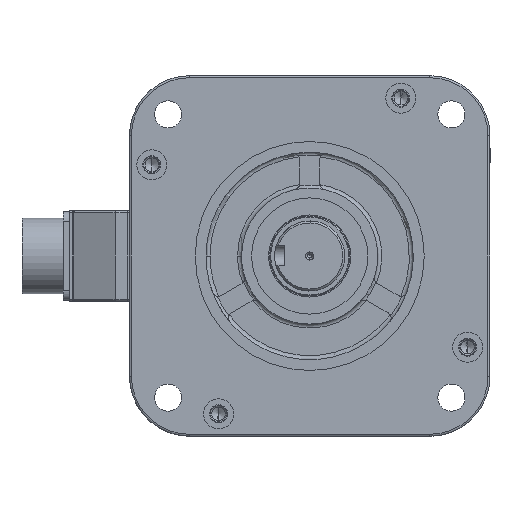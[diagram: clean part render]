
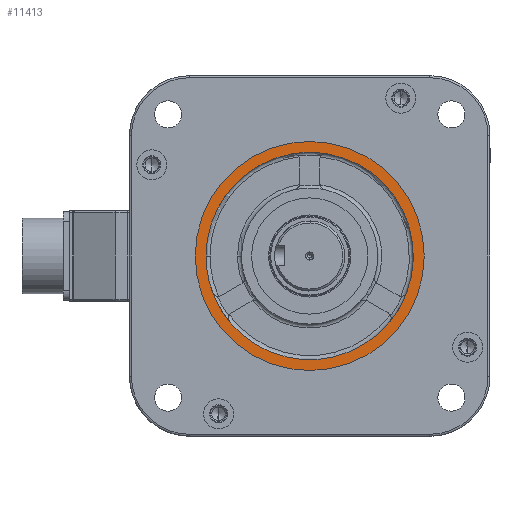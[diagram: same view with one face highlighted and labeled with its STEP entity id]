
A CAD part, left-side view. The second image highlights one B-rep face of the part: STEP entity #11413.
In plain terms, the highlighted planar face has unit normal (-1, 0, 0) as drawn and (0, 0, 1) by its records, which use the part's own axes.
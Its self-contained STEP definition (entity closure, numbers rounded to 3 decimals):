
#1977 = DIRECTION ( 'NONE',  ( 1., 0., 0. ) ) ;
#2345 = AXIS2_PLACEMENT_3D ( 'NONE', #25927, #16747, #54008 ) ;
#3490 = CARTESIAN_POINT ( 'NONE',  ( 0., 0., 21. ) ) ;
#4202 = ORIENTED_EDGE ( 'NONE', *, *, #59687, .F. ) ;
#4257 = AXIS2_PLACEMENT_3D ( 'NONE', #53026, #48127, #1977 ) ;
#5352 = CARTESIAN_POINT ( 'NONE',  ( 48.455, 18.17, 21. ) ) ;
#6390 = DIRECTION ( 'NONE',  ( 1., 0., 0. ) ) ;
#6710 = VERTEX_POINT ( 'NONE', #58742 ) ;
#7795 = DIRECTION ( 'NONE',  ( 0., 0., 1. ) ) ;
#8180 = ORIENTED_EDGE ( 'NONE', *, *, #17092, .F. ) ;
#9237 = VERTEX_POINT ( 'NONE', #51777 ) ;
#9625 = CARTESIAN_POINT ( 'NONE',  ( 0., 0., 21. ) ) ;
#10361 = FACE_BOUND ( 'NONE', #19733, .T. ) ;
#10972 = CARTESIAN_POINT ( 'NONE',  ( 0., 0., 21. ) ) ;
#11404 = CARTESIAN_POINT ( 'NONE',  ( 8.492, -51.048, 21. ) ) ;
#11413 = ADVANCED_FACE ( 'NONE', ( #10361, #57110 ), #38185, .T. ) ;
#11822 = CIRCLE ( 'NONE', #54772, 51.75 ) ;
#12083 = DIRECTION ( 'NONE',  ( 0., 0., 1. ) ) ;
#13052 = EDGE_LOOP ( 'NONE', ( #32313, #18221 ) ) ;
#13415 = DIRECTION ( 'NONE',  ( 0., 0., 1. ) ) ;
#14551 = DIRECTION ( 'NONE',  ( 0., 0., 1. ) ) ;
#16747 = DIRECTION ( 'NONE',  ( 0., 0., 1. ) ) ;
#17092 = EDGE_CURVE ( 'NONE', #54783, #20160, #29979, .T. ) ;
#17542 = VERTEX_POINT ( 'NONE', #36149 ) ;
#18221 = ORIENTED_EDGE ( 'NONE', *, *, #32267, .T. ) ;
#19126 = ORIENTED_EDGE ( 'NONE', *, *, #40717, .F. ) ;
#19733 = EDGE_LOOP ( 'NONE', ( #40390, #8180, #35056, #19126, #37128, #28521, #4202 ) ) ;
#20160 = VERTEX_POINT ( 'NONE', #5352 ) ;
#20786 = AXIS2_PLACEMENT_3D ( 'NONE', #39687, #29334, #6390 ) ;
#21423 = CARTESIAN_POINT ( 'NONE',  ( 51.75, 0., 21. ) ) ;
#21768 = CIRCLE ( 'NONE', #41255, 57.15 ) ;
#21848 = CIRCLE ( 'NONE', #4257, 51.75 ) ;
#23389 = DIRECTION ( 'NONE',  ( 0., 0., 1. ) ) ;
#24022 = DIRECTION ( 'NONE',  ( 1., 0., 0. ) ) ;
#24937 = DIRECTION ( 'NONE',  ( 0., 0., 1. ) ) ;
#25038 = DIRECTION ( 'NONE',  ( 1., 0., 0. ) ) ;
#25927 = CARTESIAN_POINT ( 'NONE',  ( 0., 0., 21. ) ) ;
#26465 = DIRECTION ( 'NONE',  ( 1., 0., 0. ) ) ;
#27094 = DIRECTION ( 'NONE',  ( 1., 0., 0. ) ) ;
#28521 = ORIENTED_EDGE ( 'NONE', *, *, #35597, .F. ) ;
#29334 = DIRECTION ( 'NONE',  ( 0., 0., 1. ) ) ;
#29800 = CARTESIAN_POINT ( 'NONE',  ( 39.963, 32.879, 21. ) ) ;
#29828 = CARTESIAN_POINT ( 'NONE',  ( 0., 0., 21. ) ) ;
#29963 = CARTESIAN_POINT ( 'NONE',  ( -8.492, -51.048, 21. ) ) ;
#29979 = CIRCLE ( 'NONE', #54463, 51.75 ) ;
#32267 = EDGE_CURVE ( 'NONE', #52166, #17542, #40087, .T. ) ;
#32313 = ORIENTED_EDGE ( 'NONE', *, *, #38413, .T. ) ;
#35056 = ORIENTED_EDGE ( 'NONE', *, *, #36037, .F. ) ;
#35489 = CIRCLE ( 'NONE', #43277, 51.75 ) ;
#35597 = EDGE_CURVE ( 'NONE', #6710, #9237, #54943, .T. ) ;
#36037 = EDGE_CURVE ( 'NONE', #43438, #54783, #35489, .T. ) ;
#36149 = CARTESIAN_POINT ( 'NONE',  ( -57.15, 0., 21. ) ) ;
#36730 = EDGE_CURVE ( 'NONE', #9237, #46685, #11822, .T. ) ;
#37128 = ORIENTED_EDGE ( 'NONE', *, *, #36730, .F. ) ;
#38185 = PLANE ( 'NONE',  #59731 ) ;
#38413 = EDGE_CURVE ( 'NONE', #17542, #52166, #21768, .T. ) ;
#39381 = EDGE_CURVE ( 'NONE', #20160, #54185, #48200, .T. ) ;
#39687 = CARTESIAN_POINT ( 'NONE',  ( 0., 0., 21. ) ) ;
#40087 = CIRCLE ( 'NONE', #44973, 57.15 ) ;
#40390 = ORIENTED_EDGE ( 'NONE', *, *, #39381, .F. ) ;
#40631 = CARTESIAN_POINT ( 'NONE',  ( 0., 0., 21. ) ) ;
#40717 = EDGE_CURVE ( 'NONE', #46685, #43438, #21848, .T. ) ;
#40819 = CARTESIAN_POINT ( 'NONE',  ( 0., 0., 21. ) ) ;
#41085 = DIRECTION ( 'NONE',  ( 0., 0., 1. ) ) ;
#41255 = AXIS2_PLACEMENT_3D ( 'NONE', #43267, #14551, #24022 ) ;
#41519 = DIRECTION ( 'NONE',  ( 1., 0., 0. ) ) ;
#43267 = CARTESIAN_POINT ( 'NONE',  ( 0., 0., 21. ) ) ;
#43277 = AXIS2_PLACEMENT_3D ( 'NONE', #40819, #7795, #45092 ) ;
#43438 = VERTEX_POINT ( 'NONE', #11404 ) ;
#44973 = AXIS2_PLACEMENT_3D ( 'NONE', #40631, #13415, #41519 ) ;
#45092 = DIRECTION ( 'NONE',  ( 1., 0., 0. ) ) ;
#46416 = CARTESIAN_POINT ( 'NONE',  ( 57.15, 0., 21. ) ) ;
#46685 = VERTEX_POINT ( 'NONE', #29963 ) ;
#48127 = DIRECTION ( 'NONE',  ( 0., 0., 1. ) ) ;
#48200 = CIRCLE ( 'NONE', #2345, 51.75 ) ;
#51777 = CARTESIAN_POINT ( 'NONE',  ( -48.455, 18.17, 21. ) ) ;
#52166 = VERTEX_POINT ( 'NONE', #46416 ) ;
#52725 = DIRECTION ( 'NONE',  ( 1., 0., 0. ) ) ;
#53026 = CARTESIAN_POINT ( 'NONE',  ( 0., 0., 21. ) ) ;
#53571 = CIRCLE ( 'NONE', #56522, 51.75 ) ;
#54008 = DIRECTION ( 'NONE',  ( 1., 0., 0. ) ) ;
#54185 = VERTEX_POINT ( 'NONE', #29800 ) ;
#54463 = AXIS2_PLACEMENT_3D ( 'NONE', #3490, #41085, #26465 ) ;
#54772 = AXIS2_PLACEMENT_3D ( 'NONE', #29828, #24937, #52725 ) ;
#54783 = VERTEX_POINT ( 'NONE', #21423 ) ;
#54943 = CIRCLE ( 'NONE', #20786, 51.75 ) ;
#56522 = AXIS2_PLACEMENT_3D ( 'NONE', #9625, #23389, #27094 ) ;
#57110 = FACE_OUTER_BOUND ( 'NONE', #13052, .T. ) ;
#58742 = CARTESIAN_POINT ( 'NONE',  ( -39.963, 32.879, 21. ) ) ;
#59687 = EDGE_CURVE ( 'NONE', #54185, #6710, #53571, .T. ) ;
#59731 = AXIS2_PLACEMENT_3D ( 'NONE', #10972, #12083, #25038 ) ;
